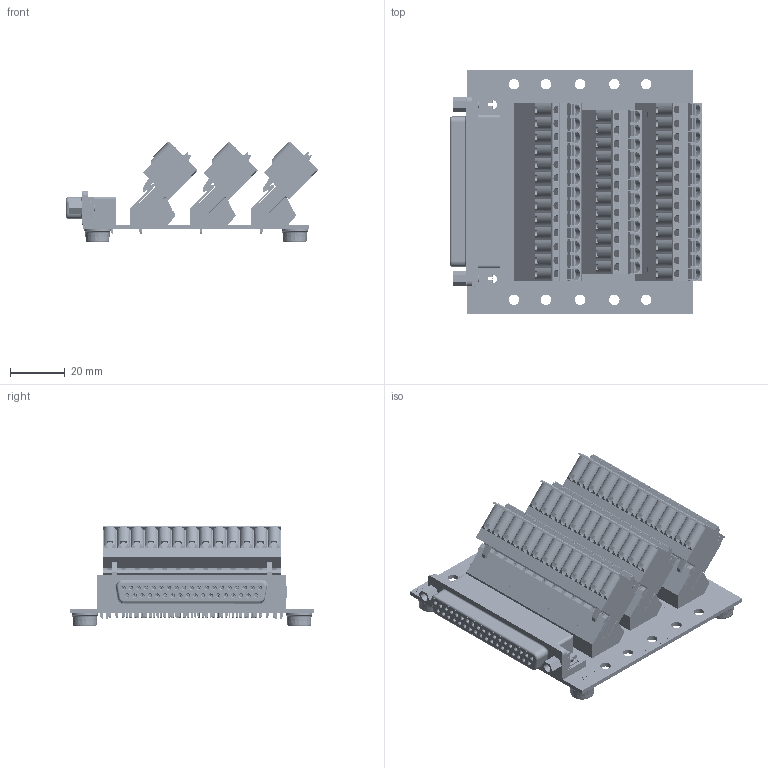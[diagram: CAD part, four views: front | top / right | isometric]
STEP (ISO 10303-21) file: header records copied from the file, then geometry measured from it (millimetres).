
FILE_DESCRIPTION (( 'STEP AP214' ), '1' );
FILE_NAME ('brkld37f-rg-ft_rev_a.stp', '2021-03-09T03:16:32', ( '' ), ( '' ), 'SwSTEP 2.0', 'SolidWorks 2017', '' );
FILE_SCHEMA (( 'AUTOMOTIVE_DESIGN' ));
Length unit declared in the file: inch
Products named in the file (8): BRKLD37F Board; brkld37f-rg-ft_rev_a; Angled Terminals 12; Spring Terminals 13; Spring Terminals 12; Angled Terminals 13; Female Right Angle 37 Pin; RubberFoot
Assembly tree (12 placements, depth 2):
  brkld37f-rg-ft_rev_a
    BRKLD37F Board
    Female Right Angle 37 Pin
    RubberFoot  x4
    Angled Terminals 12
    Angled Terminals 13  x2
    Spring Terminals 12
    Spring Terminals 13  x2
Bounding box: 92.02 x 88.9 x 36.86 mm (x, y, z)
Volume: 88004.3 mm3; surface area: 70318.1 mm2
Topology: 52 solids, 52 shells, 9228 faces, 23578 edges, 15035 vertices
Faces by surface type: plane 5807, cylinder 2117, bspline 929, cone 272, torus 103
Entity records: 315635 total; most frequent: CARTESIAN_POINT 86567, ORIENTED_EDGE 38350, DIRECTION 34133, EDGE_CURVE 19175, LINE 13353, VECTOR 13353, VERTEX_POINT 12266, AXIS2_PLACEMENT_3D 10390
